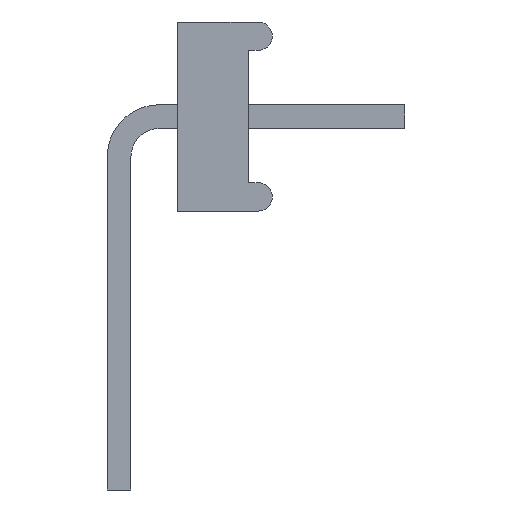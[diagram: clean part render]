
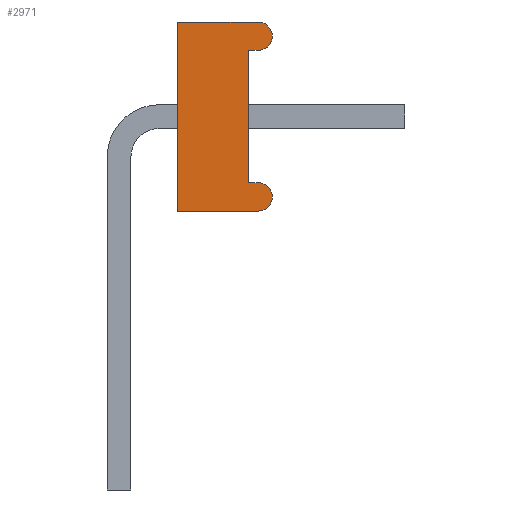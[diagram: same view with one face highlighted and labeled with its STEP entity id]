
A CAD part, left-side view. The second image highlights one B-rep face of the part: STEP entity #2971.
In plain terms, the highlighted planar face has unit normal (-1, 0, 0).
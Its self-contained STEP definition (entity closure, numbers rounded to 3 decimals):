
#72=CARTESIAN_POINT('',(-17.78,-0.254,2.159));
#73=DIRECTION('',(1.,0.,0.));
#74=DIRECTION('',(0.,0.,1.));
#75=AXIS2_PLACEMENT_3D('',#72,#73,#74);
#77=DIRECTION('',(0.,1.,0.));
#78=VECTOR('',#77,0.254);
#79=CARTESIAN_POINT('',(-17.78,-0.254,1.778));
#80=LINE('',#79,#78);
#81=DIRECTION('',(0.,0.,-1.));
#82=VECTOR('',#81,3.556);
#83=CARTESIAN_POINT('',(-17.78,0.,1.778));
#84=LINE('',#83,#82);
#85=DIRECTION('',(0.,-1.,0.));
#86=VECTOR('',#85,0.254);
#87=CARTESIAN_POINT('',(-17.78,0.,-1.778));
#88=LINE('',#87,#86);
#89=CARTESIAN_POINT('',(-17.78,-0.254,-2.159));
#90=DIRECTION('',(1.,0.,0.));
#91=DIRECTION('',(0.,0.,1.));
#92=AXIS2_PLACEMENT_3D('',#89,#90,#91);
#94=DIRECTION('',(0.,1.,0.));
#95=VECTOR('',#94,2.159);
#96=CARTESIAN_POINT('',(-17.78,-0.254,-2.54));
#97=LINE('',#96,#95);
#98=DIRECTION('',(0.,0.,1.));
#99=VECTOR('',#98,5.08);
#100=CARTESIAN_POINT('',(-17.78,1.905,-2.54));
#101=LINE('',#100,#99);
#102=DIRECTION('',(0.,-1.,0.));
#103=VECTOR('',#102,2.159);
#104=CARTESIAN_POINT('',(-17.78,1.905,2.54));
#105=LINE('',#104,#103);
#2244=CARTESIAN_POINT('',(-17.78,-0.254,2.54));
#2245=CARTESIAN_POINT('',(-17.78,-0.254,1.778));
#2246=VERTEX_POINT('',#2244);
#2247=VERTEX_POINT('',#2245);
#2248=CARTESIAN_POINT('',(-17.78,0.,1.778));
#2249=VERTEX_POINT('',#2248);
#2250=CARTESIAN_POINT('',(-17.78,0.,-1.778));
#2251=VERTEX_POINT('',#2250);
#2252=CARTESIAN_POINT('',(-17.78,-0.254,-1.778));
#2253=VERTEX_POINT('',#2252);
#2254=CARTESIAN_POINT('',(-17.78,-0.254,-2.54));
#2255=VERTEX_POINT('',#2254);
#2256=CARTESIAN_POINT('',(-17.78,1.905,-2.54));
#2257=VERTEX_POINT('',#2256);
#2258=CARTESIAN_POINT('',(-17.78,1.905,2.54));
#2259=VERTEX_POINT('',#2258);
#2948=CARTESIAN_POINT('',(-17.78,0.,0.));
#2949=DIRECTION('',(1.,0.,0.));
#2950=DIRECTION('',(0.,0.,-1.));
#2951=AXIS2_PLACEMENT_3D('',#2948,#2949,#2950);
#2952=PLANE('',#2951);
#2954=ORIENTED_EDGE('',*,*,#2953,.T.);
#2956=ORIENTED_EDGE('',*,*,#2955,.T.);
#2958=ORIENTED_EDGE('',*,*,#2957,.T.);
#2960=ORIENTED_EDGE('',*,*,#2959,.T.);
#2962=ORIENTED_EDGE('',*,*,#2961,.T.);
#2964=ORIENTED_EDGE('',*,*,#2963,.T.);
#2966=ORIENTED_EDGE('',*,*,#2965,.T.);
#2968=ORIENTED_EDGE('',*,*,#2967,.T.);
#2969=EDGE_LOOP('',(#2954,#2956,#2958,#2960,#2962,#2964,#2966,#2968));
#2970=FACE_OUTER_BOUND('',#2969,.F.);
#2971=ADVANCED_FACE('',(#2970),#2952,.F.);
#76=CIRCLE('',#75,0.381);
#93=CIRCLE('',#92,0.381);
#2953=EDGE_CURVE('',#2246,#2247,#76,.T.);
#2955=EDGE_CURVE('',#2247,#2249,#80,.T.);
#2957=EDGE_CURVE('',#2249,#2251,#84,.T.);
#2959=EDGE_CURVE('',#2251,#2253,#88,.T.);
#2961=EDGE_CURVE('',#2253,#2255,#93,.T.);
#2963=EDGE_CURVE('',#2255,#2257,#97,.T.);
#2965=EDGE_CURVE('',#2257,#2259,#101,.T.);
#2967=EDGE_CURVE('',#2259,#2246,#105,.T.);
